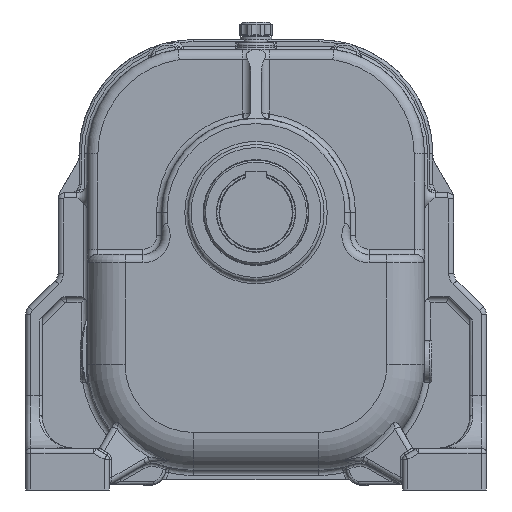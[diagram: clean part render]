
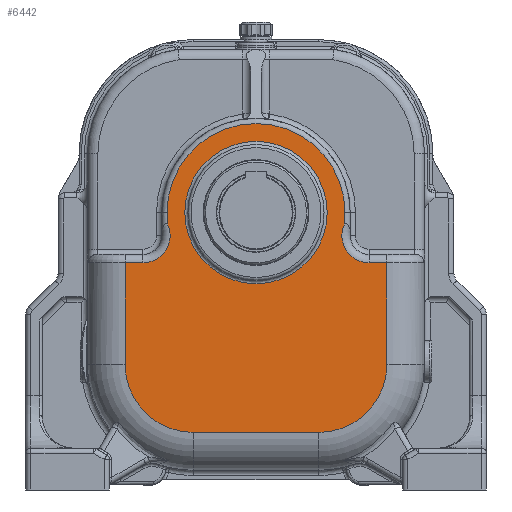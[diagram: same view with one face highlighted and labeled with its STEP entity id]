
A CAD part, front view. The second image highlights one B-rep face of the part: STEP entity #6442.
In plain terms, the highlighted planar face has unit normal (0, -1, 0).
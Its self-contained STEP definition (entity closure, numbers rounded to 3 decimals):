
#6442 = ADVANCED_FACE( '', ( #14711, #14712 ), #14713, .T. );
#14711 = FACE_BOUND( '', #37055, .T. );
#14712 = FACE_OUTER_BOUND( '', #37056, .T. );
#14713 = PLANE( '', #37057 );
#37055 = EDGE_LOOP( '', ( #68572 ) );
#37056 = EDGE_LOOP( '', ( #68573, #68574, #68575, #68576, #68577, #68578, #68579, #68580, #68581, #68582, #68583, #68584 ) );
#37057 = AXIS2_PLACEMENT_3D( '', #68585, #68586, #68587 );
#68572 = ORIENTED_EDGE( '', *, *, #88789, .T. );
#68573 = ORIENTED_EDGE( '', *, *, #88147, .T. );
#68574 = ORIENTED_EDGE( '', *, *, #86968, .T. );
#68575 = ORIENTED_EDGE( '', *, *, #88790, .T. );
#68576 = ORIENTED_EDGE( '', *, *, #88791, .T. );
#68577 = ORIENTED_EDGE( '', *, *, #88792, .T. );
#68578 = ORIENTED_EDGE( '', *, *, #88793, .T. );
#68579 = ORIENTED_EDGE( '', *, *, #88794, .T. );
#68580 = ORIENTED_EDGE( '', *, *, #84736, .T. );
#68581 = ORIENTED_EDGE( '', *, *, #86796, .T. );
#68582 = ORIENTED_EDGE( '', *, *, #88065, .T. );
#68583 = ORIENTED_EDGE( '', *, *, #81756, .T. );
#68584 = ORIENTED_EDGE( '', *, *, #88795, .T. );
#68585 = CARTESIAN_POINT( '', ( -179.606, -279.553, 74.929 ) );
#68586 = DIRECTION( '', ( 0., -1., 0. ) );
#68587 = DIRECTION( '', ( 0., 0., 1. ) );
#81756 = EDGE_CURVE( '', #92679, #92684, #92686, .T. );
#84736 = EDGE_CURVE( '', #97702, #97707, #97709, .F. );
#86796 = EDGE_CURVE( '', #97707, #100896, #100897, .T. );
#86968 = EDGE_CURVE( '', #101140, #101145, #101147, .F. );
#88065 = EDGE_CURVE( '', #100896, #92679, #102725, .T. );
#88147 = EDGE_CURVE( '', #102838, #101140, #102839, .T. );
#88789 = EDGE_CURVE( '', #103693, #103693, #103694, .F. );
#88790 = EDGE_CURVE( '', #101145, #103695, #103696, .F. );
#88791 = EDGE_CURVE( '', #103695, #103697, #103698, .T. );
#88792 = EDGE_CURVE( '', #103697, #103699, #103700, .T. );
#88793 = EDGE_CURVE( '', #103699, #103701, #103702, .T. );
#88794 = EDGE_CURVE( '', #103701, #97702, #103703, .F. );
#88795 = EDGE_CURVE( '', #92684, #102838, #103704, .T. );
#92679 = VERTEX_POINT( '', #108814 );
#92684 = VERTEX_POINT( '', #108820 );
#92686 = LINE( '', #108822, #108823 );
#97702 = VERTEX_POINT( '', #118478 );
#97707 = VERTEX_POINT( '', #118484 );
#97709 = LINE( '', #118486, #118487 );
#100896 = VERTEX_POINT( '', #125534 );
#100897 = LINE( '', #125535, #125536 );
#101140 = VERTEX_POINT( '', #126171 );
#101145 = VERTEX_POINT( '', #126177 );
#101147 = LINE( '', #126179, #126180 );
#102725 = CIRCLE( '', #130062, 65. );
#102838 = VERTEX_POINT( '', #130293 );
#102839 = LINE( '', #130294, #130295 );
#103693 = VERTEX_POINT( '', #131894 );
#103694 = CIRCLE( '', #131895, 68. );
#103695 = VERTEX_POINT( '', #131896 );
#103696 = CIRCLE( '', #131897, 26. );
#103697 = VERTEX_POINT( '', #131898 );
#103698 = LINE( '', #131899, #131900 );
#103699 = VERTEX_POINT( '', #131901 );
#103700 = CIRCLE( '', #131902, 85. );
#103701 = VERTEX_POINT( '', #131903 );
#103702 = LINE( '', #131904, #131905 );
#103703 = CIRCLE( '', #131906, 26. );
#103704 = CIRCLE( '', #131907, 65. );
#108814 = CARTESIAN_POINT( '', ( -299.606, -279.553, -191.071 ) );
#108820 = CARTESIAN_POINT( '', ( -179.606, -279.553, -191.071 ) );
#108822 = CARTESIAN_POINT( '', ( -179.606, -279.553, -191.071 ) );
#108823 = VECTOR( '', #140597, 1000. );
#118478 = CARTESIAN_POINT( '', ( -347.606, -279.553, -29.071 ) );
#118484 = CARTESIAN_POINT( '', ( -364.606, -279.553, -29.071 ) );
#118486 = CARTESIAN_POINT( '', ( -179.606, -279.553, -29.071 ) );
#118487 = VECTOR( '', #145001, 1000. );
#125534 = CARTESIAN_POINT( '', ( -364.606, -279.553, -126.071 ) );
#125535 = CARTESIAN_POINT( '', ( -364.606, -279.553, 74.929 ) );
#125536 = VECTOR( '', #148150, 1000. );
#126171 = CARTESIAN_POINT( '', ( -114.606, -279.553, -29.071 ) );
#126177 = CARTESIAN_POINT( '', ( -131.606, -279.553, -29.071 ) );
#126179 = CARTESIAN_POINT( '', ( -179.606, -279.553, -29.071 ) );
#126180 = VECTOR( '', #148389, 1000. );
#130062 = AXIS2_PLACEMENT_3D( '', #150011, #150012, #150013 );
#130293 = CARTESIAN_POINT( '', ( -114.606, -279.553, -126.071 ) );
#130294 = CARTESIAN_POINT( '', ( -114.606, -279.553, 74.929 ) );
#130295 = VECTOR( '', #150135, 1000. );
#131894 = CARTESIAN_POINT( '', ( -239.606, -279.553, 86.929 ) );
#131895 = AXIS2_PLACEMENT_3D( '', #150947, #150948, #150949 );
#131896 = CARTESIAN_POINT( '', ( -154.606, -279.553, 9.053 ) );
#131897 = AXIS2_PLACEMENT_3D( '', #150950, #150951, #150952 );
#131898 = CARTESIAN_POINT( '', ( -154.606, -279.553, 18.929 ) );
#131899 = CARTESIAN_POINT( '', ( -154.606, -279.553, 74.929 ) );
#131900 = VECTOR( '', #150953, 1000. );
#131901 = CARTESIAN_POINT( '', ( -324.606, -279.553, 18.929 ) );
#131902 = AXIS2_PLACEMENT_3D( '', #150954, #150955, #150956 );
#131903 = CARTESIAN_POINT( '', ( -324.606, -279.553, 9.053 ) );
#131904 = CARTESIAN_POINT( '', ( -324.606, -279.553, 74.929 ) );
#131905 = VECTOR( '', #150957, 1000. );
#131906 = AXIS2_PLACEMENT_3D( '', #150958, #150959, #150960 );
#131907 = AXIS2_PLACEMENT_3D( '', #150961, #150962, #150963 );
#140597 = DIRECTION( '', ( 1., 0., 0. ) );
#145001 = DIRECTION( '', ( 1., 0., 0. ) );
#148150 = DIRECTION( '', ( 0., 0., -1. ) );
#148389 = DIRECTION( '', ( 1., 0., 0. ) );
#150011 = CARTESIAN_POINT( '', ( -299.606, -279.553, -126.071 ) );
#150012 = DIRECTION( '', ( 0., -1., 0. ) );
#150013 = DIRECTION( '', ( 0., 0., 1. ) );
#150135 = DIRECTION( '', ( 0., 0., 1. ) );
#150947 = CARTESIAN_POINT( '', ( -239.606, -279.553, 18.929 ) );
#150948 = DIRECTION( '', ( 0., -1., 0. ) );
#150949 = DIRECTION( '', ( 0., 0., 1. ) );
#150950 = CARTESIAN_POINT( '', ( -131.606, -279.553, -3.071 ) );
#150951 = DIRECTION( '', ( 0., -1., 0. ) );
#150952 = DIRECTION( '', ( 0., 0., 1. ) );
#150953 = DIRECTION( '', ( 0., 0., 1. ) );
#150954 = CARTESIAN_POINT( '', ( -239.606, -279.553, 18.929 ) );
#150955 = DIRECTION( '', ( 0., -1., 0. ) );
#150956 = DIRECTION( '', ( 0., 0., 1. ) );
#150957 = DIRECTION( '', ( 0., 0., -1. ) );
#150958 = CARTESIAN_POINT( '', ( -347.606, -279.553, -3.071 ) );
#150959 = DIRECTION( '', ( 0., -1., 0. ) );
#150960 = DIRECTION( '', ( 0., 0., 1. ) );
#150961 = CARTESIAN_POINT( '', ( -179.606, -279.553, -126.071 ) );
#150962 = DIRECTION( '', ( 0., -1., 0. ) );
#150963 = DIRECTION( '', ( 0., 0., 1. ) );
